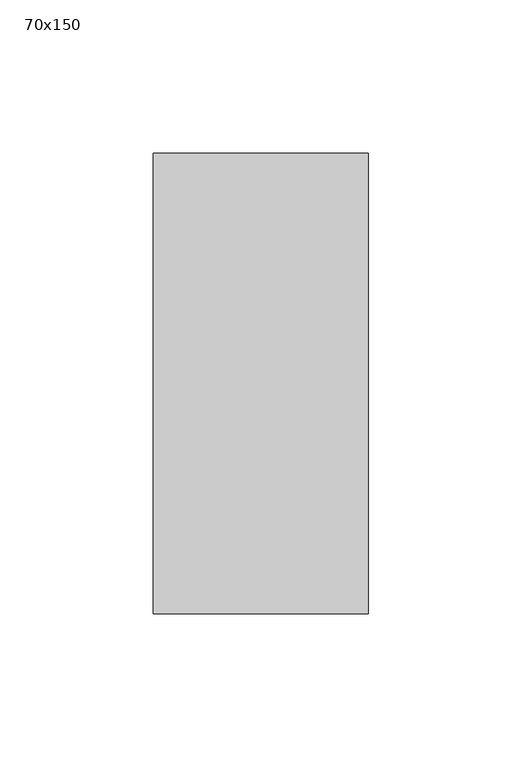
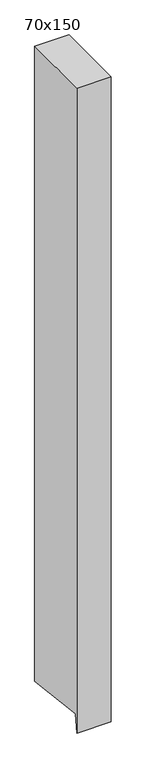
"""IFC4 building model written with IfcOpenShell, lengths in millimetres: member geometry, 長方形のマリオン : 70x150."""

from ifc_helpers import new_model, si_unit, frame, origin, place, context, project, spatial, polyline, outline, extrude, source, transform, mapped, element, save


def member_70x150_567bd6b5(model_context):
    return source(origin(), model_context, "Body", "SweptSolid", [
        extrude(outline(polyline([(-75.0, 0.0), (75.0, 0.0), (75.0, -1377.7945963), (-70.2424427, -1360.186108), (-75.0, -1399.4285025), (-75.0, 0.0)])), frame((-70.0, 0.0, 0.0), z_axis=(1.0, 0.0, 0.0), x_axis=(0.0, 1.0, 0.0)), (0.0, 0.0, 1.0), 70.0),
    ])


if __name__ == "__main__":
    model = new_model("IFC4")
    model_context = context("Model", 3, world=origin())
    ifc_project = project(units=[si_unit("LENGTHUNIT", "METRE", prefix="MILLI")], contexts=[model_context])
    site = spatial("IfcSite", under=ifc_project)
    building = spatial("IfcBuilding", under=site)
    placement = place(None, origin())
    member_70x150_shape = member_70x150_567bd6b5(model_context)
    element("IfcMember", 1, ObjectType="長方形のマリオン : 70x150", at=placement, inside=building, context=model_context, shape_type="MappedRepresentation", body=[
        mapped(member_70x150_shape, transform((0.0, 0.0, 0.0), x_axis=(1.0, 0.0, 0.0), y_axis=(0.0, 1.0, 0.0), z_axis=(0.0, 0.0, 1.0))),
    ])
    save(model, "model.ifc")
